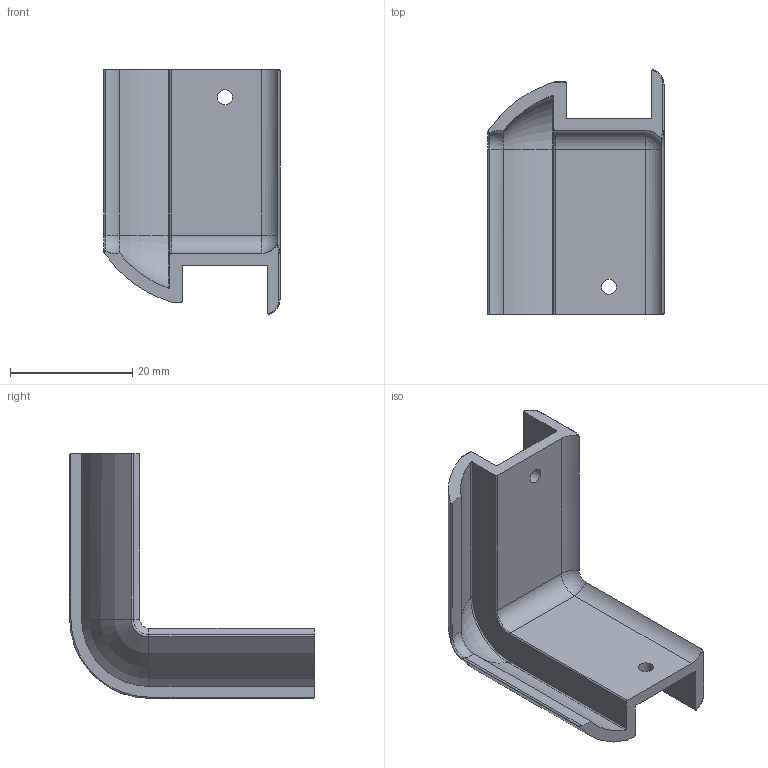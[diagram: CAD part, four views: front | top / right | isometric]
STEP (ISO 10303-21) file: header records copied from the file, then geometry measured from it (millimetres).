
FILE_DESCRIPTION (( 'STEP AP214' ), '1' );
FILE_NAME ('L15826.step', '2024-12-03T16:19:28', ( '' ), ( '' ), 'SwSTEP 2.0', 'SolidWorks 2023', '' );
FILE_SCHEMA (( 'AUTOMOTIVE_DESIGN' ));
Length unit declared in the file: millimetre
Products named in the file (1): L15826
Bounding box: 28.77 x 39.94 x 39.94 mm (x, y, z)
Volume: 5597 mm3; surface area: 6073.2 mm2
Topology: 1 solids, 1 shells, 66 faces, 166 edges, 100 vertices
Faces by surface type: cylinder 36, torus 16, plane 12, sphere 2
Full cylindrical faces by diameter (mm): 2.45 x2
Entity records: 1982 total; most frequent: DIRECTION 373, CARTESIAN_POINT 356, ORIENTED_EDGE 318, EDGE_CURVE 159, AXIS2_PLACEMENT_3D 154, VERTEX_POINT 97, CIRCLE 87, EDGE_LOOP 72
